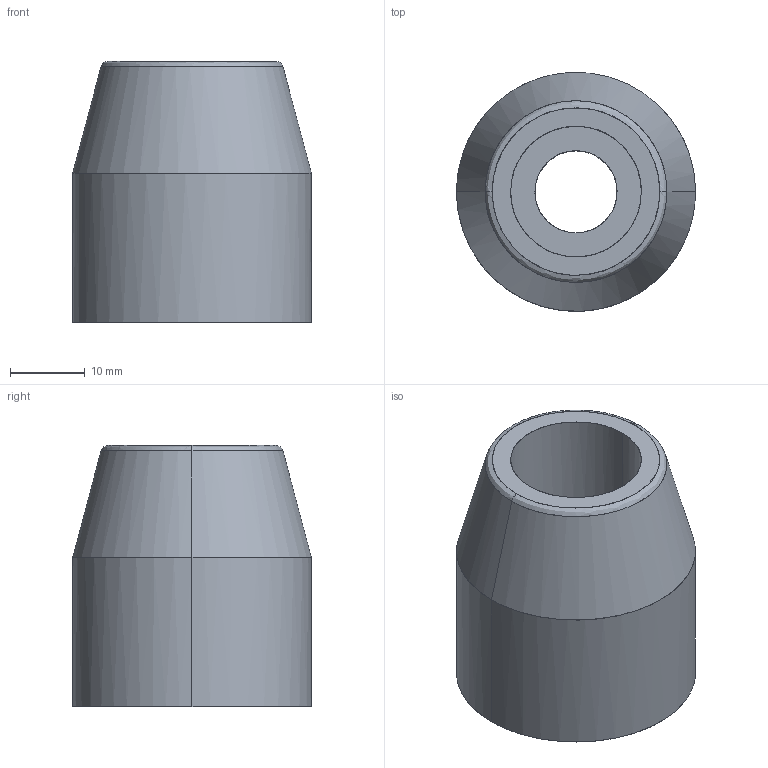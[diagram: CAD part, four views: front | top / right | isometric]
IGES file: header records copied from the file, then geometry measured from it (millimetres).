
Global section: file name: E:\UnigraphicsGraphicData\MISUMI_PRESS-PARTS\IGES\3d_lpu32-35_01658_r00.igs; native system: NX V5.0; preprocessor: UGS NX IGES V5.0; author: MISUMI; date: 20110105.161229; units: millimetre
Bounding box: 32 x 32 x 35 mm (x, y, z)
Surface area: 5899.4 mm2 (no closed solid volume)
Topology: 0 solids, 0 shells, 13 faces, 96 edges, 96 vertices
Faces by surface type: bspline 13
